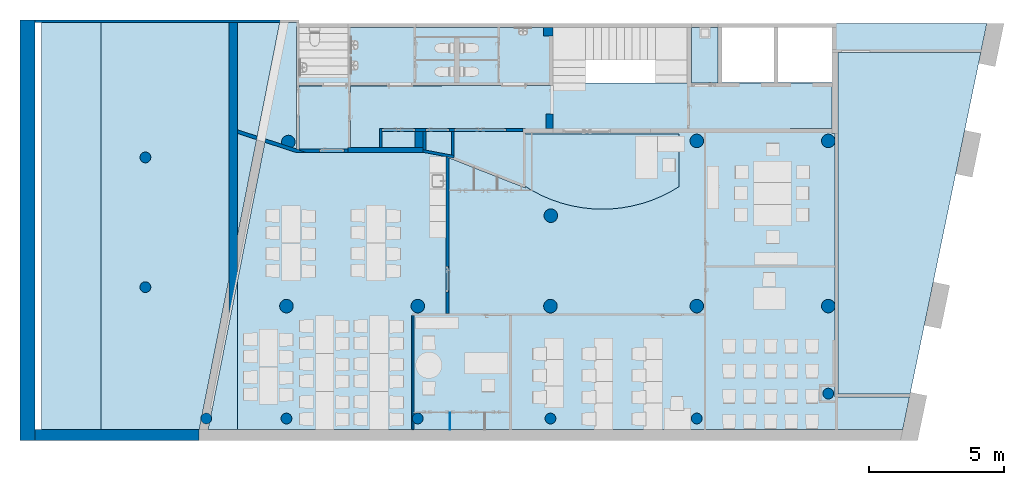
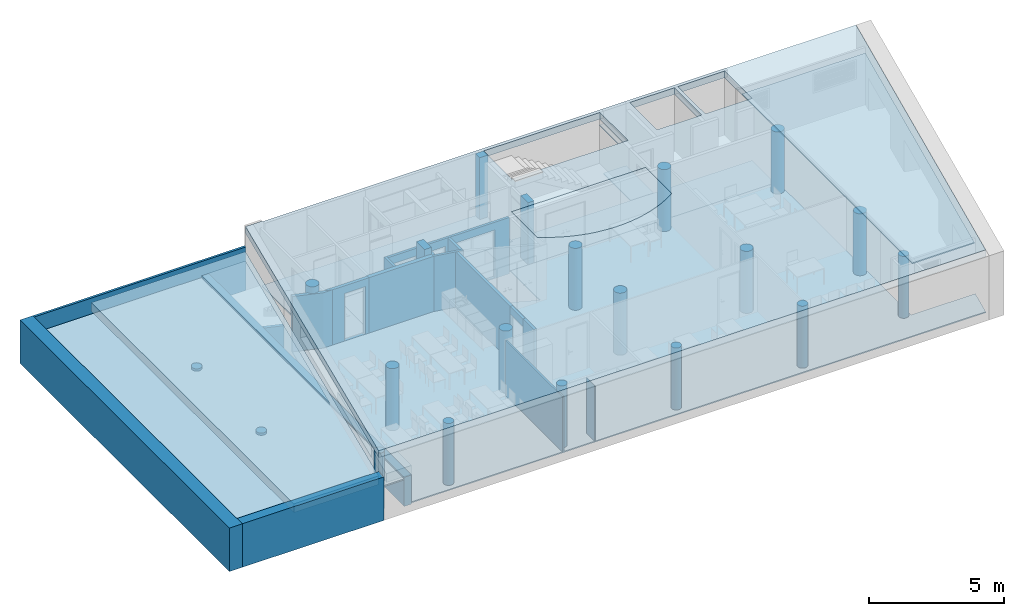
"""IFC4 building model written with IfcOpenShell, lengths in metres."""

from ifc_helpers import new_model, entity, si_unit, converted_unit, derived_unit, frame, frame_2d, origin, origin_with_axes, place, context, subcontext, project, spatial, polyline, rectangle, circle, outline, extrude, material, layer, layer_set, layer_usage, element, save


model = new_model("IFC4")

# Units and contexts
model_context = context("Model", 3, precision=1e-05, world=origin())
body_context = subcontext(model_context, "Body", "Model", "MODEL_VIEW")
ifc_project = project(units=[si_unit("LENGTHUNIT", "METRE"), si_unit("AREAUNIT", "SQUARE_METRE"), si_unit("VOLUMEUNIT", "CUBIC_METRE"), si_unit("MASSUNIT", "GRAM", prefix="KILO"), converted_unit("PLANEANGLEUNIT", "DEGREE", entity("IfcPlaneAngleMeasure", 0.0174532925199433), si_unit("PLANEANGLEUNIT", "RADIAN"), dimensions=[0, 0, 0, 0, 0, 0, 0]), derived_unit("THERMALTRANSMITTANCEUNIT", [(si_unit("POWERUNIT", "WATT"), 1), (si_unit("THERMODYNAMICTEMPERATUREUNIT", "KELVIN"), -1), (si_unit("LENGTHUNIT", "METRE"), -2)]), derived_unit("VOLUMETRICFLOWRATEUNIT", [(si_unit("LENGTHUNIT", "METRE"), 3), (converted_unit("TIMEUNIT", "hour", entity("IfcTimeMeasure", 3600.0), si_unit("TIMEUNIT", "SECOND"), dimensions=[0, 0, 1, 0, 0, 0, 0]), -1), (si_unit("LENGTHUNIT", "METRE"), -1)])], contexts=[model_context])

# Building, storeys
building_placement = place(None, origin())
building = spatial("IfcBuilding", under=ifc_project, at=building_placement, Name="HABITATGE PLURIFAMILIAR", CompositionType="ELEMENT")
storey_1_placement = place(building_placement, frame((0.0, 0.0, 3.35)))
storey_1 = spatial("IfcBuildingStorey", under=building, at=storey_1_placement, Name="PLANTA  ALTELL", CompositionType="ELEMENT", Elevation=3.35)
storey_2_placement = place(storey_1_placement, origin())
storey_2 = spatial("IfcBuildingStorey", under=storey_1, at=storey_2_placement, Name="NOU", CompositionType="PARTIAL")

# Columns
column_1_placement = place(storey_2_placement, frame((400.737164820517, 17.5495423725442, -0.1)))
element("IfcColumn", 1, at=column_1_placement, inside=storey_2, Name="Pilar PA", PredefinedType="COLUMN", context=body_context, shape_type="SweptSolid", body=[
    extrude(circle(Radius=0.25, at=frame_2d((0.25, 0.25), x_axis=(1.0, 0.0))), origin_with_axes(), (0.0, 0.0, 1.0), 2.9),
])
column_2_placement = place(storey_2_placement, frame((410.566931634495, 24.3495914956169, -0.1)))
element("IfcColumn", 2, at=column_2_placement, inside=storey_2, Name="Pilar PA", PredefinedType="COLUMN", context=body_context, shape_type="SweptSolid", body=[
    extrude(rectangle(XDim=0.263030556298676, YDim=0.552712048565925, at=frame_2d((0.131515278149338, 0.276356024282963), x_axis=(1.0, 0.0))), origin_with_axes(), (0.0, 0.0, 1.0), 2.9),
])
column_3_placement = place(storey_2_placement, frame((410.47579758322, 27.76576681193, -0.1)))
element("IfcColumn", 3, at=column_3_placement, inside=storey_2, Name="Pilar PA", PredefinedType="COLUMN", context=body_context, shape_type="SweptSolid", body=[
    extrude(rectangle(XDim=0.351270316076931, YDim=0.314320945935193, at=frame_2d((0.175635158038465, 0.157160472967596), x_axis=(1.0, 0.0))), origin_with_axes(), (0.0, 0.0, 1.0), 2.9),
])
column_4_placement = place(storey_2_placement, frame((400.807164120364, 23.6094817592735, -0.1)))
element("IfcColumn", 4, at=column_4_placement, inside=storey_2, Name="Pilar PA", PredefinedType="COLUMN", context=body_context, shape_type="SweptSolid", body=[
    extrude(circle(Radius=0.25, at=frame_2d((0.25, 0.25), x_axis=(1.0, 0.0))), origin_with_axes(), (0.0, 0.0, 1.0), 2.9),
])
column_5_placement = place(storey_2_placement, frame((400.787164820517, 13.4495838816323, -0.1)))
element("IfcColumn", 5, at=column_5_placement, inside=storey_2, Name="Pilar PA", PredefinedType="COLUMN", context=body_context, shape_type="SweptSolid", body=[
    extrude(circle(Radius=0.200000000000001, at=frame_2d((0.200000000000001, 0.200000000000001), x_axis=(1.0, 0.0))), origin_with_axes(), (0.0, 0.0, 1.0), 2.9),
])
column_6_placement = place(storey_2_placement, frame((405.587116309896, 17.5495423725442, -0.1)))
element("IfcColumn", 6, at=column_6_placement, inside=storey_2, Name="Pilar PA", PredefinedType="COLUMN", context=body_context, shape_type="SweptSolid", body=[
    extrude(circle(Radius=0.25, at=frame_2d((0.25, 0.25), x_axis=(1.0, 0.0))), origin_with_axes(), (0.0, 0.0, 1.0), 2.9),
])
for number, where, name in (
    (7, (405.637116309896, 13.4495838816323, -0.1), "Pilar PA"),
    (8, (410.53462672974, 13.4495838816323, -0.1), "Pilar PA"),
):
    element("IfcColumn", number, at=place(storey_2_placement, frame(where)), inside=storey_2, Name=name, PredefinedType="COLUMN", context=body_context, shape_type="SweptSolid", body=[
        extrude(circle(Radius=0.200000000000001, at=frame_2d((0.200000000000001, 0.200000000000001), x_axis=(1.0, 0.0))), origin_with_axes(), (0.0, 0.0, 1.0), 2.9),
    ])
for number, where, name in (
    (9, (410.483808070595, 17.5495423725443, -0.1), "Pilar PA"),
    (10, (410.497067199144, 20.8895089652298, -0.1), "Pilar PA"),
    (11, (415.88701328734, 23.6494813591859, -0.1), "Pilar PA"),
    (12, (415.88701328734, 17.5495423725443, -0.1), "Pilar PA"),
):
    element("IfcColumn", number, at=place(storey_2_placement, frame(where)), inside=storey_2, Name=name, PredefinedType="COLUMN", context=body_context, shape_type="SweptSolid", body=[
        extrude(circle(Radius=0.25, at=frame_2d((0.25, 0.25), x_axis=(1.0, 0.0))), origin_with_axes(), (0.0, 0.0, 1.0), 2.9),
    ])
for number, where, name in (
    (13, (415.93701328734, 13.4495838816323, -0.1), "Pilar PA"),
    (14, (420.791964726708, 14.3695746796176, -0.1), "Pilar PA"),
):
    element("IfcColumn", number, at=place(storey_2_placement, frame(where)), inside=storey_2, Name=name, PredefinedType="COLUMN", context=body_context, shape_type="SweptSolid", body=[
        extrude(circle(Radius=0.200000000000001, at=frame_2d((0.200000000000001, 0.200000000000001), x_axis=(1.0, 0.0))), origin_with_axes(), (0.0, 0.0, 1.0), 2.9),
    ])
for number, where, name in (
    (15, (420.741964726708, 17.5495423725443, -0.1), "Pilar PA"),
    (16, (420.741964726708, 23.6494813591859, -0.1), "Pilar PA"),
):
    element("IfcColumn", number, at=place(storey_2_placement, frame(where)), inside=storey_2, Name=name, PredefinedType="COLUMN", context=body_context, shape_type="SweptSolid", body=[
        extrude(circle(Radius=0.25, at=frame_2d((0.25, 0.25), x_axis=(1.0, 0.0))), origin_with_axes(), (0.0, 0.0, 1.0), 2.9),
    ])
column_7_placement = place(storey_2_placement, frame((405.736931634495, 23.6495914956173, -0.1)))
element("IfcColumn", 17, at=column_7_placement, inside=storey_2, Name="Pilar PA", PredefinedType="COLUMN", context=body_context, shape_type="SweptSolid", body=[
    extrude(rectangle(XDim=0.297574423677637, YDim=0.599999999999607, at=frame_2d((0.148787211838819, 0.299999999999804), x_axis=(1.0, 0.0))), origin_with_axes(), (0.0, 0.0, 1.0), 2.9),
])
for number, where, name in (
    (18, (395.579301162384, 23.0897340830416, -0.1), "Pilar PA"),
    (19, (395.579301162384, 18.3002130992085, -0.1), "Pilar PA"),
):
    element("IfcColumn", number, at=place(storey_2_placement, frame(where)), inside=storey_2, Name=name, PredefinedType="COLUMN", context=body_context, shape_type="SweptSolid", body=[
        extrude(circle(Radius=0.200000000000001, at=frame_2d((0.200000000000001, 0.200000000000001), x_axis=(1.0, 0.0))), origin_with_axes(), (0.0, 0.0, 1.0), 1.35),
    ])
column_8_placement = place(storey_2_placement, frame((397.827189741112, 13.4495923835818, -0.1)))
element("IfcColumn", 20, at=column_8_placement, inside=storey_2, Name="Pilar PA", PredefinedType="COLUMN", context=body_context, shape_type="SweptSolid", body=[
    extrude(circle(Radius=0.200000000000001, at=frame_2d((0.200000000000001, 0.200000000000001), x_axis=(1.0, 0.0))), origin_with_axes(), (0.0, 0.0, 1.0), 2.6),
])

# Slabs
slab_1_placement = place(storey_2_placement, frame((397.766447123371, 13.2406121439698, 2.5)))
element("IfcSlab", 21, at=slab_1_placement, inside=storey_2, Name="Forjat PA", PredefinedType="FLOOR", context=body_context, shape_type="SweptSolid", body=[
    extrude(outline(polyline([(25.9746568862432, 0.0), (29.0774902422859, 14.9876357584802), (3.6922959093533, 14.9876357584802), (3.6922959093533, 15.0232444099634), (2.9721794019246, 15.0232444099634), (0.0, 0.0), (25.9746568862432, 0.0)]), holes=[polyline([(11.980537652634, 9.0188477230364), (11.980537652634, 10.9188477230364), (17.720537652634, 10.9188477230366), (17.720537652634, 8.97321161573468), (17.3941835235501, 8.77923746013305), (17.0546253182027, 8.60943399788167), (16.7036501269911, 8.4646949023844), (16.3431051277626, 8.34578193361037), (15.9748878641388, 8.25332092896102), (15.6009362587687, 8.18779850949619), (15.2232184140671, 8.14955951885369), (14.8437222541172, 8.13880520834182), (14.4644450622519, 8.15559217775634), (14.0873829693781, 8.19983207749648), (13.7145204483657, 8.27129207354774), (13.3478198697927, 8.36959607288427), (12.9892111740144, 8.49422670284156), (12.6405817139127, 8.64452803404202), (12.3037663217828, 8.81970903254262), (11.980537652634, 9.0188477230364)]), polyline([(18.0303220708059, 14.8394756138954), (18.0303220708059, 12.7515533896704), (13.060620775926, 12.7515533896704), (13.0638260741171, 14.8394756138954), (18.0303220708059, 14.8394756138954)]), polyline([(23.3705161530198, 14.8394756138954), (23.3705153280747, 12.8087473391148), (21.3709388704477, 12.8094286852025), (21.3709388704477, 14.8394756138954), (23.3705161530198, 14.8394756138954)]), polyline([(19.3082448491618, 14.8394756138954), (21.2209388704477, 14.8394756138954), (21.2209388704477, 12.8094286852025), (19.3082448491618, 12.8087473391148), (19.3082448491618, 14.8394756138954)])]), origin_with_axes(), (0.0, 0.0, 1.0), 0.300000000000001),
])
slab_2_placement = place(storey_2_placement, frame((409.746984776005, 21.3794173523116, 2.7)))
element("IfcSlab", 22, at=slab_2_placement, inside=storey_2, Name="Forjat PA", PredefinedType="FLOOR", context=body_context, shape_type="SweptSolid", body=[
    extrude(outline(polyline([(0.0, 0.880042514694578), (0.323228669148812, 0.680903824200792), (0.66004406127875, 0.505722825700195), (1.00867352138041, 0.35542149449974), (1.3672822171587, 0.230790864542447), (1.73398279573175, 0.132486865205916), (2.10684531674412, 0.0610268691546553), (2.48390740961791, 0.0167869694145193), (2.86318460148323, 0.0), (3.24268076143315, 0.0107543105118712), (3.62039860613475, 0.048993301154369), (3.99435021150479, 0.114515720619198), (4.36256747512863, 0.206976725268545), (4.72311247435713, 0.325889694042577), (5.07408766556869, 0.470628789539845), (5.41364587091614, 0.64043225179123), (5.74, 0.83440640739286), (5.74000000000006, 2.78004251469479), (0.0, 2.78004251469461), (0.0, 0.880042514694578)])), origin_with_axes(), (0.0, 0.0, 1.0), 0.1),
])
slab_3_placement = place(storey_2_placement, frame((394.139778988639, 13.2406121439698, 1.27)))
element("IfcSlab", 23, at=slab_3_placement, inside=storey_2, Name="Forjat PA", PredefinedType="FLOOR", context=body_context, shape_type="SweptSolid", body=[
    extrude(outline(polyline([(0.0, 15.0232444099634), (0.0, 0.0), (3.62666813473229, 0.0), (6.59884753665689, 15.0232444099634), (0.0, 15.0232444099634)])), origin_with_axes(), (0.0, 0.0, 1.0), 0.4),
])
slab_4_placement = place(storey_2_placement, frame((401.458743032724, 23.5923812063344, 2.2)))
element("IfcSlab", 24, at=slab_4_placement, inside=storey_2, Name="Fals sostre PA", PredefinedType="FLOOR", context=body_context, shape_type="SweptSolid", body=[
    extrude(outline(polyline([(2.95692368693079, 0.757210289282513), (19.6782181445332, 0.757210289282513), (19.6782190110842, 2.29721028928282), (15.4659489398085, 2.29721028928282), (15.4659489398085, 4.48770655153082), (14.3181886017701, 4.48770655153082), (14.3181886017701, 2.39978432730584), (9.36832486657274, 2.39978432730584), (9.36897001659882, 4.48770655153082), (1.79839908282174, 4.48770655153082), (1.79839908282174, 4.53586669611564), (0.0, 4.53586669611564), (0.0, 0.0), (1.79839908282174, 0.0), (1.79839908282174, 0.05), (2.95692368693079, 0.05), (2.95692368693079, 0.757210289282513)])), origin_with_axes(), (0.0, 0.0, 1.0), 0.05),
])
slab_5_placement = place(storey_2_placement, frame((391.949713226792, 13.2406121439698, 1.1)))
element("IfcSlab", 25, at=slab_5_placement, inside=storey_2, Name="Fals sostre PA", PredefinedType="FLOOR", context=body_context, shape_type="SweptSolid", body=[
    extrude(rectangle(XDim=15.0232444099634, YDim=6.90746969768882, at=frame_2d((3.45373484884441, -7.51162220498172), x_axis=(0.0, -1.0))), frame((0.0, 15.0232444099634, 0.0), z_axis=(0.0, 0.0, 1.0), x_axis=(1.0, 0.0, 0.0)), (0.0, 0.0, 1.0), 0.05),
])
slab_6_placement = place(storey_2_placement, frame((421.356963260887, 14.5495923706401, 2.2)))
element("IfcSlab", 26, at=slab_6_placement, inside=storey_2, Name="Fals sostre PA", PredefinedType="FLOOR", context=body_context, shape_type="SweptSolid", body=[
    extrude(outline(polyline([(5.2699651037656, 12.6199991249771), (1.02491467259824e-08, 12.6199991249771), (0.0, 0.0), (2.65513395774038, 0.0), (5.2699651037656, 12.6199991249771)])), origin_with_axes(), (0.0, 0.0, 1.0), 0.05),
])
slab_7_placement = place(storey_2_placement, frame((398.092667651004, 13.2406121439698, 1.25)))
element("IfcSlab", 27, at=slab_7_placement, inside=storey_2, Name="Forjat PA", PredefinedType="FLOOR", context=body_context, shape_type="SweptSolid", body=[
    extrude(outline(polyline([(0.0, 9.20434965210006e-05), (1.08451527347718, 0.0), (1.08451527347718, 5.48190717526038), (0.0, 9.20434965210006e-05)])), origin_with_axes(), (0.0, 0.0, 1.0), 0.4),
])
slab_8_placement = place(storey_2_placement, frame((398.857182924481, 18.7538696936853, 1.22)))
element("IfcSlab", 28, at=slab_8_placement, inside=storey_2, Name="Forjat PA", PredefinedType="FLOOR", context=body_context, shape_type="SweptSolid", body=[
    extrude(outline(polyline([(-0.337289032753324, -0.2291182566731), (0.395205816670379, -0.467340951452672), (1.22415456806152, 3.7226819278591), (-0.657289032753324, 3.7226819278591), (-0.657289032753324, -5.78730493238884), (0.36979574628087, -0.595779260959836), (-0.337289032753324, -0.36582045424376), (-0.337289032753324, -0.2291182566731)])), frame((0.657289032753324, 5.78730493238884, 0.0), z_axis=(0.0, 0.0, 1.0), x_axis=(1.0, 0.0, 0.0)), (0.0, 0.0, 1.0), 0.03),
    extrude(outline(polyline([(-0.359894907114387, 0.0486942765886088), (0.347189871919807, -0.181264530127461), (0.372599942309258, -0.0528262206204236), (-0.359894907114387, 0.185396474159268), (-0.359894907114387, 0.0486942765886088)])), frame((0.679894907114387, 5.37279020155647, 0.01), z_axis=(0.0, 0.0, 1.0), x_axis=(1.0, 0.0, 0.0)), (0.0, 0.0, 1.0), 0.02),
])
slab_9_placement = place(storey_2_placement, frame((415.946931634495, 26.0396028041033, -0.05)))
element("IfcSlab", 29, at=slab_9_placement, inside=storey_2, PredefinedType="FLOOR", context=body_context, shape_type="SweptSolid", body=[
    extrude(outline(polyline([(0.977760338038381, 2.0404849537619), (0.0, 2.0404849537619), (0.0, 0.00604394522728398), (0.977760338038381, 0.0), (0.977760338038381, 2.0404849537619)])), origin_with_axes(), (0.0, 0.0, 1.0), 0.05),
])
slab_10_placement = place(storey_2_placement, frame((399.177182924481, 13.2406121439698, -0.05)))
element("IfcSlab", 30, at=slab_10_placement, inside=storey_2, PredefinedType="FLOOR", context=body_context, shape_type="SweptSolid", body=[
    extrude(outline(polyline([(21.9597782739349, 11.1089793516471), (10.6397487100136, 11.1025189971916), (10.6397487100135, 8.9200539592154), (8.02400913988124, 9.94943234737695), (7.81474871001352, 10.0317565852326), (7.69474871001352, 10.0774479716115), (6.84474871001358, 10.2389793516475), (5.23848379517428, 10.2389793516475), (5.23873094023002, 10.4089640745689), (4.17974871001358, 10.3930683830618), (4.17974871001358, 12.6851111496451), (2.17974871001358, 12.6851111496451), (2.17974871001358, 10.3630476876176), (1.03899748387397, 10.7336470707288), (0.0, 5.48190717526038), (0.0, 0.0), (24.5639210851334, 0.0), (24.8142116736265, 1.20898022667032), (22.0697803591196, 1.20898022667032), (22.0697781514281, 10.9288664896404), (21.9597781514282, 10.9288666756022), (21.9597782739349, 11.1089793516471)])), origin_with_axes(), (0.0, 0.0, 1.0), 0.05),
])
slab_11_placement = place(storey_2_placement, frame((401.358743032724, 25.9257232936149, -0.05)))
element("IfcSlab", 31, at=slab_11_placement, inside=storey_2, PredefinedType="FLOOR", context=body_context, shape_type="SweptSolid", body=[
    extrude(outline(polyline([(9.46832486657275, 0.911691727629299), (9.46832486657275, 2.15436446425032), (1.89839908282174, 2.15436446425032), (1.89839908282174, 2.19306482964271), (0.0, 2.20276934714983), (0.0, 0.0), (1.99818860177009, 0.0), (9.46903016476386, 0.0234129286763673), (9.46873616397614, 0.911691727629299), (9.46832486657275, 0.911691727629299)])), origin_with_axes(), (0.0, 0.0, 1.0), 0.05),
])
slab_12_placement = place(storey_2_placement, frame((403.356931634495, 23.6336805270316, -0.05)))
element("IfcSlab", 32, at=slab_12_placement, inside=storey_2, PredefinedType="FLOOR", context=body_context, shape_type="SweptSolid", body=[
    extrude(outline(polyline([(11.162264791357, 2.40987768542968), (7.47081031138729, 2.40987768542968), (7.47084156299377, 2.31545569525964), (0.0, 2.29204276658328), (0.0, 0.0), (1.05898223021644, 0.0158956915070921), (1.06, 0.715910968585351), (6.46, 0.715910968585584), (6.46, 0.709450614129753), (17.7800295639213, 0.715910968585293), (17.780030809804, 2.4059109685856), (13.5677603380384, 2.4059109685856), (13.5677603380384, 2.4059222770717), (13.1174668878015, 2.40870572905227), (11.162264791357, 2.40987768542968)])), origin_with_axes(), (0.0, 0.0, 1.0), 0.05),
])

# Walls
ifc_material_1 = material()
ifc_layer_1 = layer(ifc_material_1, 0.1)
ifc_layer_set_1 = layer_set([ifc_layer_1])
ifc_layer_usage_1 = layer_usage(ifc_layer_set_1, "AXIS2", "POSITIVE", 0.0)
wall_1_placement = place(storey_2_placement, frame((404.415666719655, 24.3495914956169, -0.05), z_axis=(0.0, 0.0, 1.0), x_axis=(0.0, -1.0, 0.0)))
element("IfcWall", 33, at=wall_1_placement, inside=storey_2, material=ifc_layer_usage_1, Name="Evans PA", context=body_context, shape_type="SweptSolid", body=[
    extrude(rectangle(XDim=0.699999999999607, YDim=0.1, at=frame_2d((0.349999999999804, 0.05), x_axis=(1.0, 0.0))), origin_with_axes(), (0.0, 0.0, 1.0), 2.55),
])
ifc_material_2 = material()
ifc_layer_2 = layer(ifc_material_2, 0.100000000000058)
ifc_layer_set_2 = layer_set([ifc_layer_2])
ifc_layer_usage_2 = layer_usage(ifc_layer_set_2, "AXIS2", "POSITIVE", 0.0)
wall_2_placement = place(storey_2_placement, frame((407.177933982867, 23.3617221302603, -0.05), z_axis=(0.0, 0.0, 1.0), x_axis=(0.0, 1.0, 0.0)))
element("IfcWall", 34, at=wall_2_placement, inside=storey_2, material=ifc_layer_usage_2, Name="Evans PA", context=body_context, shape_type="SweptSolid", body=[
    extrude(outline(polyline([(0.0, -0.100000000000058), (0.887869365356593, -0.100000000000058), (0.887869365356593, 0.0), (0.0189953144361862, 0.0), (0.0, -0.100000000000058)])), frame((0.0, 0.100000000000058, 0.0), z_axis=(0.0, 0.0, 1.0), x_axis=(1.0, 0.0, 0.0)), (0.0, 0.0, 1.0), 2.55),
])
ifc_material_3 = material()
ifc_layer_3 = layer(ifc_material_3, 0.100000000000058)
ifc_layer_set_3 = layer_set([ifc_layer_3])
ifc_layer_usage_3 = layer_usage(ifc_layer_set_3, "AXIS2", "POSITIVE", 0.0)
wall_3_placement = place(storey_2_placement, frame((406.134506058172, 23.5599245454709, -0.05), z_axis=(0.0, 0.0, 1.0), x_axis=(0.0, 1.0, 0.0)))
element("IfcWall", 35, at=wall_3_placement, inside=storey_2, material=ifc_layer_usage_3, Name="Evans PA", context=body_context, shape_type="SweptSolid", body=[
    extrude(outline(polyline([(0.0, -0.100000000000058), (0.689666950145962, -0.100000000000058), (0.689666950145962, 0.0), (0.0189953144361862, 0.0), (0.0, -0.100000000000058)])), frame((0.0, 0.100000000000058, 0.0), z_axis=(0.0, 0.0, 1.0), x_axis=(1.0, 0.0, 0.0)), (0.0, 0.0, 1.0), 2.55),
])
ifc_material_4 = material()
ifc_layer_4 = layer(ifc_material_4, 0.07)
ifc_layer_set_4 = layer_set([ifc_layer_4])
ifc_layer_usage_4 = layer_usage(ifc_layer_set_4, "AXIS2", "POSITIVE", 0.0)
wall_4_placement = place(storey_2_placement, frame((405.622118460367, 17.4496064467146, -0.05), z_axis=(0.0, 0.0, 1.0), x_axis=(0.0, -1.0, 0.0)))
element("IfcWall", 36, at=wall_4_placement, inside=storey_2, material=ifc_layer_usage_4, Name="Evans PA", context=body_context, shape_type="SweptSolid", body=[
    extrude(rectangle(XDim=4.20899430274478, YDim=0.07, at=frame_2d((2.10449715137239, 0.035), x_axis=(1.0, 0.0))), origin_with_axes(), (0.0, 0.0, 1.0), 2.55),
])
ifc_material_5 = material()
ifc_layer_5 = layer(ifc_material_5, 0.100000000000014)
ifc_layer_set_5 = layer_set([ifc_layer_5])
ifc_layer_usage_5 = layer_usage(ifc_layer_set_5, "AXIS2", "POSITIVE", 0.0)
wall_5_placement = place(storey_2_placement, frame((406.034506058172, 23.4771317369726, -0.05), z_axis=(0.0, 0.0, 1.0), x_axis=(0.982432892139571, -0.186616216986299, 0.0)))
element("IfcWall", 37, at=wall_5_placement, inside=storey_2, material=ifc_layer_usage_5, Name="Evans PA", context=body_context, shape_type="SweptSolid", body=[
    extrude(outline(polyline([(-0.0405326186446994, 0.213382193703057), (1.12334120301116, 0.213382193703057), (1.10434588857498, 0.313382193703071), (-0.0595279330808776, 0.313382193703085), (-0.0405326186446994, 0.213382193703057)])), frame((0.0405326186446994, -0.213382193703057, 0.0), z_axis=(0.0, 0.0, 1.0), x_axis=(1.0, 0.0, 0.0)), (0.0, 0.0, 1.0), 2.55),
])

# Wall, openings
ifc_material_6 = material()
ifc_layer_6 = layer(ifc_material_6, 0.1)
ifc_layer_set_6 = layer_set([ifc_layer_6])
ifc_layer_usage_6 = layer_usage(ifc_layer_set_6, "AXIS2", "POSITIVE", 0.0)
wall_6_placement = place(storey_2_placement, frame((409.716597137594, 24.3495914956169, -0.05), z_axis=(0.0, 0.0, 1.0), x_axis=(-1.0, 0.0, 0.0)))
wall_6 = element("IfcWall", 38, at=wall_6_placement, inside=storey_2, material=ifc_layer_usage_6, Name="Evans PA", context=body_context, shape_type="SweptSolid", body=[
    extrude(rectangle(XDim=5.20093041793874, YDim=0.1, at=frame_2d((2.60046520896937, 0.05), x_axis=(1.0, 0.0))), origin_with_axes(), (0.0, 0.0, 1.0), 2.55),
])
opening_1_placement = place(wall_6_placement, frame((5.1938556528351, 0.1, 0.05), z_axis=(0.0, -1.0, 0.0), x_axis=(0.0, 0.0, 1.0)))
element("IfcOpeningElement", 39, at=opening_1_placement, cuts=wall_6, Name="Vano de puerta PA", ObjectType="Opening", context=body_context, shape_type="SweptSolid", body=[
    extrude(outline(polyline([(2.15, 1.20933157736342), (2.15, 0.0), (0.0, 0.0), (0.0, 1.20933157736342), (2.15, 1.20933157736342)])), origin_with_axes(), (0.0, 0.0, 1.0), 0.1),
])
opening_2_placement = place(wall_6_placement, frame((2.53158838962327, 0.1, 0.05), z_axis=(0.0, -1.0, 0.0), x_axis=(0.0, 0.0, 1.0)))
element("IfcOpeningElement", 40, at=opening_2_placement, cuts=wall_6, Name="Vano de puerta PA", ObjectType="Opening", context=body_context, shape_type="SweptSolid", body=[
    extrude(outline(polyline([(2.15, 1.90908991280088), (2.15, 0.0), (0.0, 0.0), (0.0, 1.90908991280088), (2.15, 1.90908991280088)])), origin_with_axes(), (0.0, 0.0, 1.0), 0.1),
])
opening_3_placement = place(wall_6_placement, frame((2.72701034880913, 0.0, 0.05), z_axis=(0.0, 1.0, 0.0), x_axis=(0.0, 0.0, 1.0)))
element("IfcOpeningElement", 41, at=opening_3_placement, cuts=wall_6, Name="Vano de puerta PA", ObjectType="Opening", context=body_context, shape_type="SweptSolid", body=[
    extrude(outline(polyline([(2.15, 0.853177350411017), (2.15, 0.0), (0.0, 0.0), (0.0, 0.853177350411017), (2.15, 0.853177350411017)])), origin_with_axes(), (0.0, 0.0, 1.0), 0.1),
])

# Wall
ifc_material_7 = material()
ifc_layer_7 = layer(ifc_material_7, 0.17)
ifc_layer_set_7 = layer_set([ifc_layer_7])
ifc_layer_usage_7 = layer_usage(ifc_layer_set_7, "AXIS2", "POSITIVE", 0.0)
wall_7_placement = place(storey_2_placement, frame((403.257142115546, 23.4795914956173, -0.05)))
element("IfcWall", 42, at=wall_7_placement, inside=storey_2, material=ifc_layer_usage_7, Name="Evans PA", context=body_context, shape_type="SweptSolid", body=[
    extrude(rectangle(XDim=2.77736394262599, YDim=0.17, at=frame_2d((1.388681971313, 0.085), x_axis=(1.0, 0.0))), origin_with_axes(), (0.0, 0.0, 1.0), 2.55),
])

# Wall, opening
ifc_material_8 = material()
ifc_layer_8 = layer(ifc_material_8, 0.12)
ifc_layer_set_8 = layer_set([ifc_layer_8])
ifc_layer_usage_8 = layer_usage(ifc_layer_set_8, "AXIS2", "POSITIVE", 0.0)
wall_8_placement = place(storey_2_placement, frame((406.991931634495, 17.5196064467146, -0.05), z_axis=(0.0, 0.0, 1.0), x_axis=(0.0, 1.0, 0.0)))
wall_8 = element("IfcWall", 43, at=wall_8_placement, inside=storey_2, material=ifc_layer_usage_8, Name="Evans PA", context=body_context, shape_type="SweptSolid", body=[
    extrude(outline(polyline([(0.0, -0.12), (5.75279898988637, -0.12), (5.7823156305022, -0.0450049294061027), (5.78950989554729, -0.0470841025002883), (5.79845366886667, 0.0), (0.0, 0.0), (0.0, -0.12)])), frame((0.0, 0.12, 0.0), z_axis=(0.0, 0.0, 1.0), x_axis=(1.0, 0.0, 0.0)), (0.0, 0.0, 1.0), 2.55),
])
opening_4_placement = place(wall_8_placement, frame((0.804868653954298, 0.0, 0.05), z_axis=(0.0, 1.0, 0.0), x_axis=(0.0, 0.0, 1.0)))
element("IfcOpeningElement", 44, at=opening_4_placement, cuts=wall_8, Name="Nicho en muro", ObjectType="Opening", context=body_context, shape_type="SweptSolid", body=[
    extrude(outline(polyline([(2.2, 0.94), (2.2, 0.0), (0.0, 0.0), (0.0, 0.94), (2.2, 0.94)])), origin_with_axes(), (0.0, 0.0, 1.0), 0.12),
])

# Walls
ifc_material_9 = material()
ifc_layer_9 = layer(ifc_material_9, 0.4)
ifc_layer_set_9 = layer_set([ifc_layer_9])
ifc_layer_usage_9 = layer_usage(ifc_layer_set_9, "AXIS2", "POSITIVE", 0.0)
wall_9_placement = place(storey_2_placement, frame((391.699713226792, 12.8406121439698, -0.1)))
element("IfcWall", 45, at=wall_9_placement, inside=storey_2, material=ifc_layer_usage_9, Name="Mur PA", context=body_context, shape_type="SweptSolid", body=[
    extrude(rectangle(XDim=6.06673389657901, YDim=0.4, at=frame_2d((3.03336694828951, 0.2), x_axis=(1.0, 0.0))), origin_with_axes(), (0.0, 0.0, 1.0), 1.97),
])
ifc_material_10 = material()
ifc_layer_10 = layer(ifc_material_10, 0.1)
ifc_layer_set_10 = layer_set([ifc_layer_10])
ifc_layer_usage_10 = layer_usage(ifc_layer_set_10, "AXIS2", "POSITIVE", 0.0)
wall_10_placement = place(storey_2_placement, frame((400.758410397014, 28.3638565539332, -0.1), z_axis=(0.0, 0.0, 1.0), x_axis=(-1.0, 0.0, 0.0)))
element("IfcWall", 46, at=wall_10_placement, inside=storey_2, material=ifc_layer_usage_10, Name="Evans PA", context=body_context, shape_type="SweptSolid", body=[
    extrude(rectangle(XDim=9.05869717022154, YDim=0.1, at=frame_2d((4.52934858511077, 0.05), x_axis=(1.0, 0.0))), origin_with_axes(), (0.0, 0.0, 1.0), 1.97),
])
ifc_material_11 = material()
ifc_layer_11 = layer(ifc_material_11, 0.025)
ifc_layer_set_11 = layer_set([ifc_layer_11])
ifc_layer_usage_11 = layer_usage(ifc_layer_set_11, "AXIS2", "POSITIVE", 0.0)
wall_11_placement = place(storey_2_placement, frame((407.033729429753, 13.2406121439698, -0.05), z_axis=(0.0, 0.0, 1.0), x_axis=(0.0, 1.0, 0.0)))
element("IfcWall", 47, at=wall_11_placement, inside=storey_2, material=ifc_layer_usage_11, Name="Evans PA", context=body_context, shape_type="SweptSolid", body=[
    extrude(rectangle(XDim=0.618979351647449, YDim=0.025, at=frame_2d((0.309489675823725, 0.0125), x_axis=(1.0, 0.0))), origin_with_axes(), (0.0, 0.0, 1.0), 2.55),
])
ifc_material_12 = material()
ifc_layer_12 = layer(ifc_material_12, 0.129999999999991)
ifc_layer_set_12 = layer_set([ifc_layer_12])
ifc_layer_usage_12 = layer_usage(ifc_layer_set_12, "AXIS2", "POSITIVE", 0.0)
wall_12_placement = place(storey_2_placement, frame((400.190770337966, 23.8458209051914, -0.05), z_axis=(0.0, 0.0, 1.0), x_axis=(0.950972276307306, -0.309276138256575, 0.0)))
element("IfcWall", 48, at=wall_12_placement, inside=storey_2, material=ifc_layer_usage_12, Name="Evans PA", context=body_context, shape_type="SweptSolid", body=[
    extrude(outline(polyline([(-0.113266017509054, 0.348274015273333), (1.07088421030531, 0.348274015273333), (1.43321427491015, 0.466111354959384), (1.18175429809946, 0.466111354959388), (1.17779874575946, 0.478274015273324), (-0.128824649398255, 0.478274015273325), (-0.113266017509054, 0.348274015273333)])), frame((0.113266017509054, -0.348274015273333, 0.0), z_axis=(0.0, 0.0, 1.0), x_axis=(1.0, 0.0, 0.0)), (0.0, 0.0, 1.0), 2.55),
])

# Wall, opening
ifc_material_13 = material()
ifc_layer_13 = layer(ifc_material_13, 0.13)
ifc_layer_set_13 = layer_set([ifc_layer_13])
ifc_layer_usage_13 = layer_usage(ifc_layer_set_13, "AXIS2", "POSITIVE", 0.0)
wall_13_placement = place(storey_2_placement, frame((401.697874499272, 23.4795914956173, -0.05)))
wall_13 = element("IfcWall", 49, at=wall_13_placement, inside=storey_2, material=ifc_layer_usage_13, Name="Evans PA", context=body_context, shape_type="SweptSolid", body=[
    extrude(outline(polyline([(0.239131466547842, 0.0), (1.79839908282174, 0.0), (1.79839908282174, 0.13), (0.0, 0.13), (0.0, 0.0777705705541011), (0.239131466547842, 0.0)])), frame((-0.239131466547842, 0.0, 0.0), z_axis=(0.0, 0.0, 1.0), x_axis=(1.0, 0.0, 0.0)), (0.0, 0.0, 1.0), 2.55),
])
opening_5_placement = place(wall_13_placement, frame((1.40926911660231, 0.13, 0.05), z_axis=(0.0, -1.0, 0.0), x_axis=(0.0, 0.0, 1.0)))
element("IfcOpeningElement", 50, at=opening_5_placement, cuts=wall_13, Name="Vano de puerta PA", ObjectType="Opening", context=body_context, shape_type="SweptSolid", body=[
    extrude(outline(polyline([(2.15, 0.89999099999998), (2.15, 0.0), (0.0, 0.0), (0.0, 0.89999099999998), (2.15, 0.89999099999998)])), origin_with_axes(), (0.0, 0.0, 1.0), 0.13),
])

# Wall
ifc_material_14 = material()
ifc_layer_14 = layer(ifc_material_14, 0.55)
ifc_layer_set_14 = layer_set([ifc_layer_14])
ifc_layer_usage_14 = layer_usage(ifc_layer_set_14, "AXIS2", "POSITIVE", 0.0)
wall_14_placement = place(storey_2_placement, frame((391.149713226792, 28.3638565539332, -0.1), z_axis=(0.0, 0.0, 1.0), x_axis=(0.0, -1.0, 0.0)))
element("IfcWall", 51, at=wall_14_placement, inside=storey_2, material=ifc_layer_usage_14, Name="Mur PA", context=body_context, shape_type="SweptSolid", body=[
    extrude(rectangle(XDim=15.5232444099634, YDim=0.55, at=frame_2d((7.76162220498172, 0.275), x_axis=(1.0, 0.0))), origin_with_axes(), (0.0, 0.0, 1.0), 1.97),
])

# Wall, opening
ifc_material_15 = material()
ifc_layer_15 = layer(ifc_material_15, 0.32)
ifc_layer_set_15 = layer_set([ifc_layer_15])
ifc_layer_usage_15 = layer_usage(ifc_layer_set_15, "AXIS2", "POSITIVE", 0.0)
wall_15_placement = place(storey_2_placement, frame((399.177182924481, 13.2406121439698, -0.1), z_axis=(0.0, 0.0, 1.0), x_axis=(0.0, 1.0, 0.0)))
wall_15 = element("IfcWall", 52, at=wall_15_placement, inside=storey_2, material=ifc_layer_usage_15, Name="Evans PA", context=body_context, shape_type="SweptSolid", body=[
    extrude(rectangle(XDim=15.0232444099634, YDim=0.32, at=frame_2d((7.51162220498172, 0.16), x_axis=(1.0, 0.0))), origin_with_axes(), (0.0, 0.0, 1.0), 1.32),
])
opening_6_placement = place(wall_15_placement, frame((8.84038410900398, -0.338234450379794, 2.05), z_axis=(-0.19407706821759, -0.980986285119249, 0.0), x_axis=(0.0, 0.0, 1.0)))
element("IfcOpeningElement", 53, at=opening_6_placement, cuts=wall_15, Name="Vano de finestra PA", ObjectType="Opening", context=body_context, shape_type="SweptSolid", body=[
    extrude(outline(polyline([(0.55, 8.163087), (0.55, 0.0), (0.0, 0.0), (0.0, 8.163087), (0.55, 8.163087)])), origin_with_axes(), (0.0, 0.0, 1.0), 0.319999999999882),
])

# Wall
ifc_material_16 = material()
ifc_layer_16 = layer(ifc_material_16, 0.129999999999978)
ifc_layer_set_16 = layer_set([ifc_layer_16])
ifc_layer_usage_16 = layer_usage(ifc_layer_set_16, "AXIS2", "POSITIVE", 0.0)
wall_16_placement = place(storey_2_placement, frame((399.177182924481, 24.1753541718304, -0.1), z_axis=(0.0, 0.0, 1.0), x_axis=(0.950972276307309, -0.309276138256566, 0.0)))
element("IfcWall", 54, at=wall_16_placement, inside=storey_2, material=ifc_layer_usage_16, Name="Evans PA", context=body_context, shape_type="SweptSolid", body=[
    extrude(outline(polyline([(-0.0711207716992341, 0.218684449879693), (0.672418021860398, 0.218684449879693), (0.656859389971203, 0.348684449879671), (-0.113399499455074, 0.348684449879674), (-0.0711207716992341, 0.218684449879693)])), frame((0.0711207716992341, -0.218684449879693, 0.0), z_axis=(0.0, 0.0, 1.0), x_axis=(1.0, 0.0, 0.0)), (0.0, 0.0, 1.0), 1.33),
])

# Wall, opening
ifc_material_17 = material()
ifc_layer_17 = layer(ifc_material_17, 0.1)
ifc_layer_set_17 = layer_set([ifc_layer_17])
ifc_layer_usage_17 = layer_usage(ifc_layer_set_17, "AXIS2", "POSITIVE", 0.0)
wall_17_placement = place(storey_2_placement, frame((406.871931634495, 19.2644751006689, -0.1), z_axis=(0.0, 0.0, 1.0), x_axis=(0.0, -1.0, 0.0)))
wall_17 = element("IfcWall", 55, at=wall_17_placement, inside=storey_2, material=ifc_layer_usage_17, Name="Evans PA", context=body_context, shape_type="SweptSolid", body=[
    extrude(rectangle(XDim=0.94, YDim=0.1, at=frame_2d((0.47, 0.05), x_axis=(1.0, 0.0))), origin_with_axes(), (0.0, 0.0, 1.0), 2.6),
])
opening_7_placement = place(wall_17_placement, frame((0.0, 0.0, 0.1), z_axis=(0.0, 1.0, 0.0), x_axis=(0.0, 0.0, 1.0)))
element("IfcOpeningElement", 56, at=opening_7_placement, cuts=wall_17, Name="Vano puerta", ObjectType="Opening", context=body_context, shape_type="SweptSolid", body=[
    extrude(outline(polyline([(2.15, 0.94), (2.15, 0.0), (0.0, 0.0), (0.0, 0.94), (2.15, 0.94)])), origin_with_axes(), (0.0, 0.0, 1.0), 0.1),
])

save(model, "model.ifc")
